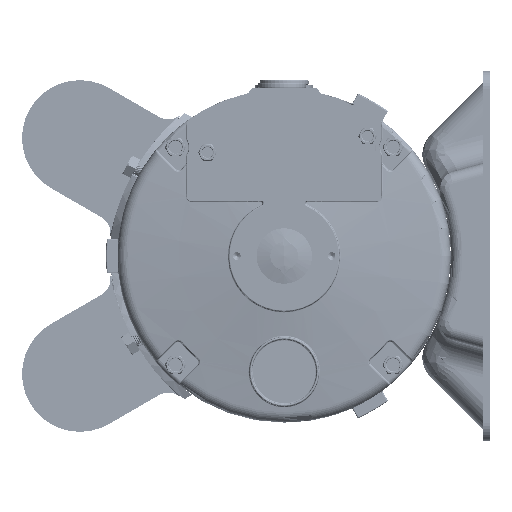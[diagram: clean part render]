
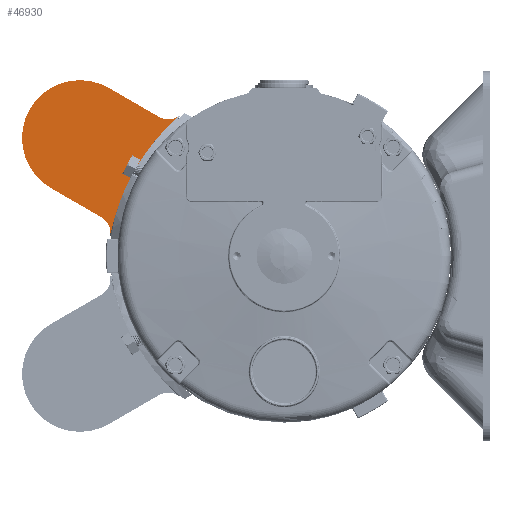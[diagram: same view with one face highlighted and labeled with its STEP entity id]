
A CAD part, left-side view. The second image highlights one B-rep face of the part: STEP entity #46930.
In plain terms, the highlighted planar face has unit normal (-1, 0, 0) as drawn and (0, -1, 0) by its records, which use the part's own axes.
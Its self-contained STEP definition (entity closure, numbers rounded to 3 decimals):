
#1788 = EDGE_CURVE ( 'NONE', #91340, #89529, #69935, .T. ) ;
#1821 = VERTEX_POINT ( 'NONE', #26497 ) ;
#4540 = LINE ( 'NONE', #67269, #106292 ) ;
#5365 = CARTESIAN_POINT ( 'NONE',  ( 49.025, -81.554, 33.758 ) ) ;
#5649 = DIRECTION ( 'NONE',  ( 0., -1., 0. ) ) ;
#6689 = CARTESIAN_POINT ( 'NONE',  ( -1.155, -81.554, 70.671 ) ) ;
#9641 = DIRECTION ( 'NONE',  ( 1., 0., 0. ) ) ;
#11600 = EDGE_CURVE ( 'NONE', #11780, #1821, #91989, .T. ) ;
#11780 = VERTEX_POINT ( 'NONE', #53219 ) ;
#11835 = EDGE_CURVE ( 'NONE', #76457, #91340, #80779, .T. ) ;
#16452 = ORIENTED_EDGE ( 'NONE', *, *, #84545, .T. ) ;
#18408 = PLANE ( 'NONE',  #76071 ) ;
#23105 = ORIENTED_EDGE ( 'NONE', *, *, #11600, .F. ) ;
#25365 = DIRECTION ( 'NONE',  ( 0.5, 0., 0.866 ) ) ;
#26087 = VERTEX_POINT ( 'NONE', #102481 ) ;
#26497 = CARTESIAN_POINT ( 'NONE',  ( -1.055, -81.554, 62.672 ) ) ;
#26812 = DIRECTION ( 'NONE',  ( 0., 0., 1. ) ) ;
#29952 = CARTESIAN_POINT ( 'NONE',  ( 61.616, -81.554, 63.394 ) ) ;
#30202 = AXIS2_PLACEMENT_3D ( 'NONE', #71392, #107065, #26812 ) ;
#31203 = VECTOR ( 'NONE', #41077, 1000. ) ;
#31524 = DIRECTION ( 'NONE',  ( 0.866, 0., -0.5 ) ) ;
#32445 = AXIS2_PLACEMENT_3D ( 'NONE', #85946, #5649, #41371 ) ;
#35386 = EDGE_CURVE ( 'NONE', #98587, #26087, #4540, .T. ) ;
#38636 = CARTESIAN_POINT ( 'NONE',  ( -1.141, -81.554, 62.524 ) ) ;
#38812 = AXIS2_PLACEMENT_3D ( 'NONE', #76106, #111796, #31524 ) ;
#39461 = ORIENTED_EDGE ( 'NONE', *, *, #70771, .T. ) ;
#40757 = ORIENTED_EDGE ( 'NONE', *, *, #1788, .T. ) ;
#41077 = DIRECTION ( 'NONE',  ( 0.5, 0., 0.866 ) ) ;
#41371 = DIRECTION ( 'NONE',  ( 0.5, 0., 0.866 ) ) ;
#42421 = DIRECTION ( 'NONE',  ( 0., 1., 0. ) ) ;
#46930 = ADVANCED_FACE ( 'NONE', ( #98701 ), #18408, .F. ) ;
#47842 = AXIS2_PLACEMENT_3D ( 'NONE', #6689, #42421, #78202 ) ;
#52064 = VERTEX_POINT ( 'NONE', #108580 ) ;
#53219 = CARTESIAN_POINT ( 'NONE',  ( -1.141, -81.554, 62.524 ) ) ;
#53363 = ORIENTED_EDGE ( 'NONE', *, *, #11835, .T. ) ;
#54194 = CARTESIAN_POINT ( 'NONE',  ( -19.77, -81.554, -27.57 ) ) ;
#61827 = CARTESIAN_POINT ( 'NONE',  ( 18.315, -81.554, 88.394 ) ) ;
#67269 = CARTESIAN_POINT ( 'NONE',  ( 30.815, -81.554, 110.044 ) ) ;
#69935 = LINE ( 'NONE', #105628, #93618 ) ;
#70771 = EDGE_CURVE ( 'NONE', #26087, #1821, #98351, .T. ) ;
#71392 = CARTESIAN_POINT ( 'NONE',  ( 56.003, -81.554, 37.671 ) ) ;
#74427 = DIRECTION ( 'NONE',  ( 0.5, 0., 0.866 ) ) ;
#76071 = AXIS2_PLACEMENT_3D ( 'NONE', #54194, #89935, #9641 ) ;
#76106 = CARTESIAN_POINT ( 'NONE',  ( -19.77, -81.554, -27.57 ) ) ;
#76457 = VERTEX_POINT ( 'NONE', #91592 ) ;
#78202 = DIRECTION ( 'NONE',  ( 0., 0., 1. ) ) ;
#80779 = CIRCLE ( 'NONE', #30202, 8. ) ;
#82232 = CARTESIAN_POINT ( 'NONE',  ( 49.075, -81.554, 41.671 ) ) ;
#82608 = VECTOR ( 'NONE', #74427, 1000. ) ;
#83009 = CIRCLE ( 'NONE', #32445, 25. ) ;
#84545 = EDGE_CURVE ( 'NONE', #89529, #98587, #83009, .T. ) ;
#85656 = LINE ( 'NONE', #5365, #31203 ) ;
#85946 = CARTESIAN_POINT ( 'NONE',  ( 39.965, -81.554, 75.894 ) ) ;
#88495 = ORIENTED_EDGE ( 'NONE', *, *, #103163, .T. ) ;
#89364 = CIRCLE ( 'NONE', #38812, 92. ) ;
#89529 = VERTEX_POINT ( 'NONE', #29952 ) ;
#89935 = DIRECTION ( 'NONE',  ( 0., 1., 0. ) ) ;
#91340 = VERTEX_POINT ( 'NONE', #82232 ) ;
#91592 = CARTESIAN_POINT ( 'NONE',  ( 49.025, -81.554, 33.758 ) ) ;
#91989 = LINE ( 'NONE', #38636, #82608 ) ;
#93618 = VECTOR ( 'NONE', #25365, 1000. ) ;
#98351 = CIRCLE ( 'NONE', #47842, 8. ) ;
#98587 = VERTEX_POINT ( 'NONE', #61827 ) ;
#98701 = FACE_OUTER_BOUND ( 'NONE', #106431, .T. ) ;
#102481 = CARTESIAN_POINT ( 'NONE',  ( 5.773, -81.554, 66.671 ) ) ;
#102965 = DIRECTION ( 'NONE',  ( -0.5, 0., -0.866 ) ) ;
#103163 = EDGE_CURVE ( 'NONE', #52064, #76457, #85656, .T. ) ;
#104204 = EDGE_CURVE ( 'NONE', #11780, #52064, #89364, .T. ) ;
#105628 = CARTESIAN_POINT ( 'NONE',  ( 46.15, -81.554, 36.606 ) ) ;
#105688 = ORIENTED_EDGE ( 'NONE', *, *, #35386, .T. ) ;
#106292 = VECTOR ( 'NONE', #102965, 1000. ) ;
#106431 = EDGE_LOOP ( 'NONE', ( #16452, #105688, #39461, #23105, #115927, #88495, #53363, #40757 ) ) ;
#107065 = DIRECTION ( 'NONE',  ( 0., 1., 0. ) ) ;
#108580 = CARTESIAN_POINT ( 'NONE',  ( 48.939, -81.554, 33.61 ) ) ;
#111796 = DIRECTION ( 'NONE',  ( 0., 1., 0. ) ) ;
#115927 = ORIENTED_EDGE ( 'NONE', *, *, #104204, .T. ) ;
